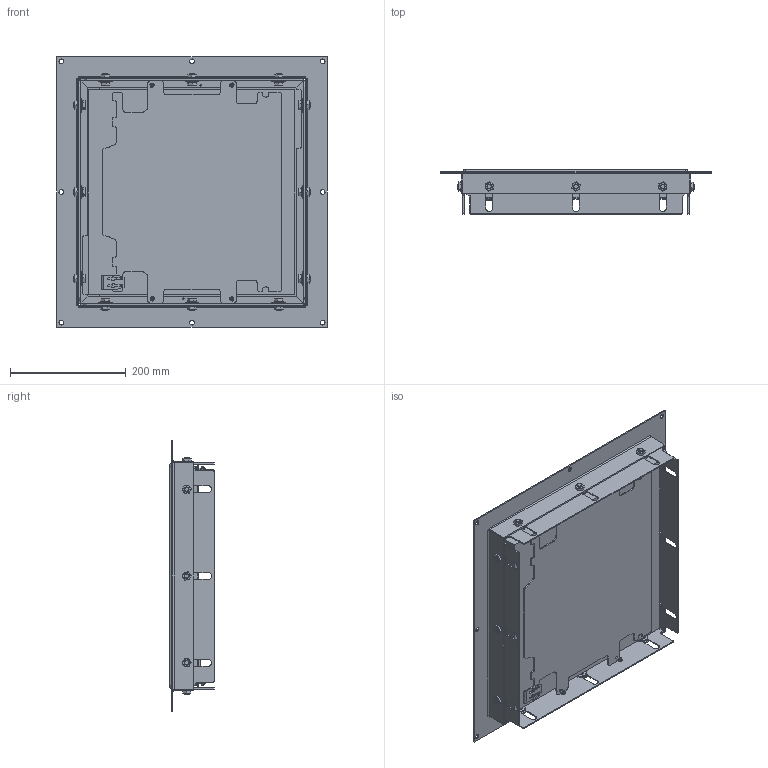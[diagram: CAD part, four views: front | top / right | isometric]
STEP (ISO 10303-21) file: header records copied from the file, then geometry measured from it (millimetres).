
FILE_DESCRIPTION (( 'STEP AP214' ), '1' );
FILE_NAME ('MS-I-10-P.STEP', '2019-02-06T12:21:24', ( '' ), ( '' ), 'SwSTEP 2.0', 'SolidWorks 2018', '' );
FILE_SCHEMA (( 'AUTOMOTIVE_DESIGN' ));
Length unit declared in the file: millimetre
Products named in the file (1): MS-I-10-P
Bounding box: 468 x 76.2 x 468 mm (x, y, z)
Volume: 6858376.4 mm3; surface area: 871092.8 mm2
Topology: 1 solids, 1 shells, 1827 faces, 4622 edges, 2754 vertices
Faces by surface type: cylinder 724, plane 663, bspline 224, cone 104, torus 88, sphere 24
Entity records: 87054 total; most frequent: CARTESIAN_POINT 24986, ORIENTED_EDGE 9004, DIRECTION 8471, EDGE_CURVE 4502, AXIS2_PLACEMENT_3D 3211, VERTEX_POINT 2754, VECTOR 2049, LINE 2049
